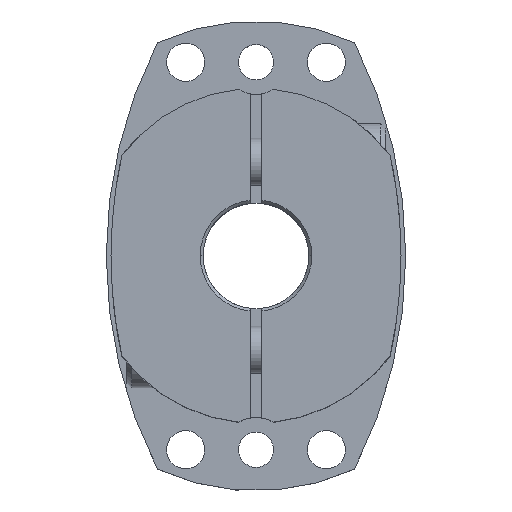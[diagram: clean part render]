
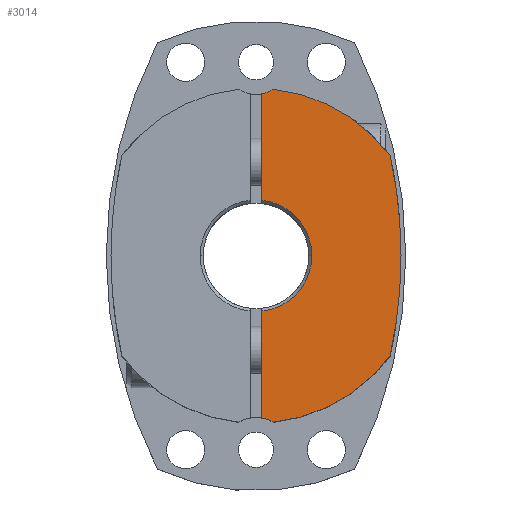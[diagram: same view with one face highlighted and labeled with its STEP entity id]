
A CAD part, top view. The second image highlights one B-rep face of the part: STEP entity #3014.
In plain terms, the highlighted planar face has unit normal (0, 0, 1).
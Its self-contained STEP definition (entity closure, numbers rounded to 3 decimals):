
#373=CARTESIAN_POINT('',(9.5,0.,25.5));
#374=VERTEX_POINT('',#373);
#381=CARTESIAN_POINT('',(1.,9.447,25.5));
#382=VERTEX_POINT('',#381);
#383=CARTESIAN_POINT('',(0.,0.,25.5));
#384=DIRECTION('',(0.0,0.0,1.0));
#385=DIRECTION('',(-1.0,0.0,0.0));
#386=AXIS2_PLACEMENT_3D('',#383,#384,#385);
#387=CIRCLE('',#386,9.5);
#388=EDGE_CURVE('',#374,#382,#387,.T.);
#537=CARTESIAN_POINT('',(24.7,0.,25.5));
#538=VERTEX_POINT('',#537);
#658=CARTESIAN_POINT('',(22.845,17.039,25.5));
#659=VERTEX_POINT('',#658);
#666=CARTESIAN_POINT('',(-54.5,0.,25.5));
#667=DIRECTION('',(0.0,0.0,-1.0));
#668=DIRECTION('',(1.0,0.0,0.0));
#669=AXIS2_PLACEMENT_3D('',#666,#667,#668);
#670=CIRCLE('',#669,79.2);
#671=EDGE_CURVE('',#659,#538,#670,.T.);
#2331=CARTESIAN_POINT('',(2.935,28.348,25.5));
#2332=VERTEX_POINT('',#2331);
#2339=CARTESIAN_POINT('',(0.,0.,25.5));
#2340=DIRECTION('',(0.0,0.0,-1.0));
#2341=DIRECTION('',(1.0,0.0,0.0));
#2342=AXIS2_PLACEMENT_3D('',#2339,#2340,#2341);
#2343=CIRCLE('',#2342,28.5);
#2344=EDGE_CURVE('',#2332,#659,#2343,.T.);
#2555=CARTESIAN_POINT('',(22.845,-17.039,25.5));
#2556=VERTEX_POINT('',#2555);
#2557=CARTESIAN_POINT('',(-54.5,0.,25.5));
#2558=DIRECTION('',(0.0,0.0,-1.0));
#2559=DIRECTION('',(1.0,0.0,0.0));
#2560=AXIS2_PLACEMENT_3D('',#2557,#2558,#2559);
#2561=CIRCLE('',#2560,79.2);
#2562=EDGE_CURVE('',#538,#2556,#2561,.T.);
#2679=CARTESIAN_POINT('',(1.,-27.592,25.5));
#2680=VERTEX_POINT('',#2679);
#2696=CARTESIAN_POINT('',(2.935,-28.348,25.5));
#2697=VERTEX_POINT('',#2696);
#2704=CARTESIAN_POINT('',(0.,-33.,25.5));
#2705=DIRECTION('',(0.0,0.0,-1.0));
#2706=DIRECTION('',(1.0,0.0,0.0));
#2707=AXIS2_PLACEMENT_3D('',#2704,#2705,#2706);
#2708=CIRCLE('',#2707,5.5);
#2709=EDGE_CURVE('',#2680,#2697,#2708,.T.);
#2888=CARTESIAN_POINT('',(1.,27.592,25.5));
#2889=VERTEX_POINT('',#2888);
#2896=CARTESIAN_POINT('',(0.,33.,25.5));
#2897=DIRECTION('',(0.0,0.0,-1.0));
#2898=DIRECTION('',(1.0,0.0,0.0));
#2899=AXIS2_PLACEMENT_3D('',#2896,#2897,#2898);
#2900=CIRCLE('',#2899,5.5);
#2901=EDGE_CURVE('',#2332,#2889,#2900,.T.);
#2936=CARTESIAN_POINT('',(1.,-9.447,25.5));
#2937=VERTEX_POINT('',#2936);
#2938=CARTESIAN_POINT('',(1.,-9.447,25.5));
#2939=DIRECTION('',(0.0,-1.0,0.0));
#2940=VECTOR('',#2939,18.144);
#2941=LINE('',#2938,#2940);
#2942=EDGE_CURVE('',#2937,#2680,#2941,.T.);
#2980=CARTESIAN_POINT('',(0.,0.,25.5));
#2981=DIRECTION('',(0.0,0.0,1.0));
#2982=DIRECTION('',(1.0,0.0,0.0));
#2983=AXIS2_PLACEMENT_3D('',#2980,#2981,#2982);
#2984=PLANE('',#2983);
#2985=ORIENTED_EDGE('',*,*,#2709,.T.);
#2986=CARTESIAN_POINT('',(0.,0.,25.5));
#2987=DIRECTION('',(0.0,0.0,-1.0));
#2988=DIRECTION('',(1.0,0.0,0.0));
#2989=AXIS2_PLACEMENT_3D('',#2986,#2987,#2988);
#2990=CIRCLE('',#2989,28.5);
#2991=EDGE_CURVE('',#2556,#2697,#2990,.T.);
#2992=ORIENTED_EDGE('',*,*,#2991,.F.);
#2993=ORIENTED_EDGE('',*,*,#2562,.F.);
#2994=ORIENTED_EDGE('',*,*,#671,.F.);
#2995=ORIENTED_EDGE('',*,*,#2344,.F.);
#2996=ORIENTED_EDGE('',*,*,#2901,.T.);
#2997=CARTESIAN_POINT('',(1.,27.592,25.5));
#2998=DIRECTION('',(0.0,-1.0,0.0));
#2999=VECTOR('',#2998,18.144);
#3000=LINE('',#2997,#2999);
#3001=EDGE_CURVE('',#2889,#382,#3000,.T.);
#3002=ORIENTED_EDGE('',*,*,#3001,.T.);
#3003=ORIENTED_EDGE('',*,*,#388,.F.);
#3004=CARTESIAN_POINT('',(0.,0.,25.5));
#3005=DIRECTION('',(0.0,0.0,1.0));
#3006=DIRECTION('',(-1.0,0.0,0.0));
#3007=AXIS2_PLACEMENT_3D('',#3004,#3005,#3006);
#3008=CIRCLE('',#3007,9.5);
#3009=EDGE_CURVE('',#2937,#374,#3008,.T.);
#3010=ORIENTED_EDGE('',*,*,#3009,.F.);
#3011=ORIENTED_EDGE('',*,*,#2942,.T.);
#3012=EDGE_LOOP('',(#2985,#2992,#2993,#2994,#2995,#2996,#3002,#3003,#3010,#3011));
#3013=FACE_OUTER_BOUND('',#3012,.T.);
#3014=ADVANCED_FACE('',(#3013),#2984,.T.);
